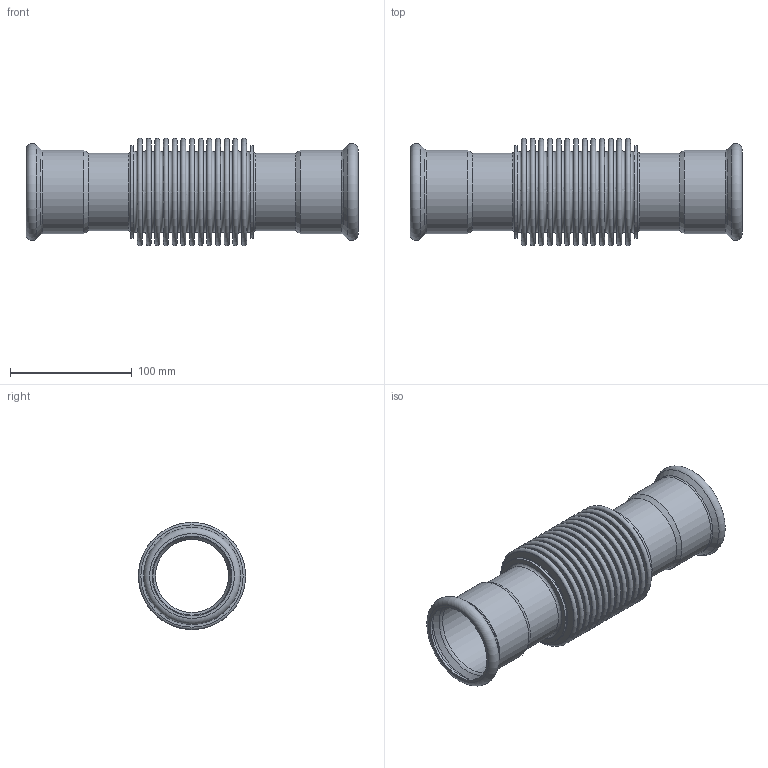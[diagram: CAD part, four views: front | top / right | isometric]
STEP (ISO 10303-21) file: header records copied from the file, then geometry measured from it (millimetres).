
FILE_DESCRIPTION((''),'2;1');
FILE_NAME('G:\Nirosan-Schmiedefeld\Technics\CAD\001 Serie 9.000\064\69872L64H(0).stp','2018-09-11T15:34:29',('herberg'),(''),'Autodesk Inventor 2009','Autodesk Inventor 2009','');
FILE_SCHEMA(('AUTOMOTIVE_DESIGN { 1 0 10303 214 1 1 1 1 }'));
Length unit declared in the file: millimetre
Products named in the file (3): 69872L64H(0); 69HMB64p(0); 69488L76P(0)
Assembly tree (3 placements, depth 2):
  69872L64H(0)
    69HMB64p(0)  x2
    69488L76P(0)
Bounding box: 273 x 88.2 x 88.2 mm (x, y, z)
Volume: 132890.7 mm3; surface area: 253482.5 mm2
Topology: 3 solids, 3 shells, 152 faces, 244 edges, 156 vertices
Faces by surface type: plane 64, bspline 36, torus 30, cylinder 14, cone 8
Full cylindrical faces by diameter (mm): 60 x2, 64 x2, 64.4 x2, 65.7 x2, 68.4 x2, 76 x2, 76.1 x2
Entity records: 5030 total; most frequent: CARTESIAN_POINT 2818, DIRECTION 476, ORIENTED_EDGE 264, EDGE_LOOP 264, AXIS2_PLACEMENT_3D 238, VERTEX_POINT 132, CIRCLE 132, EDGE_CURVE 132
